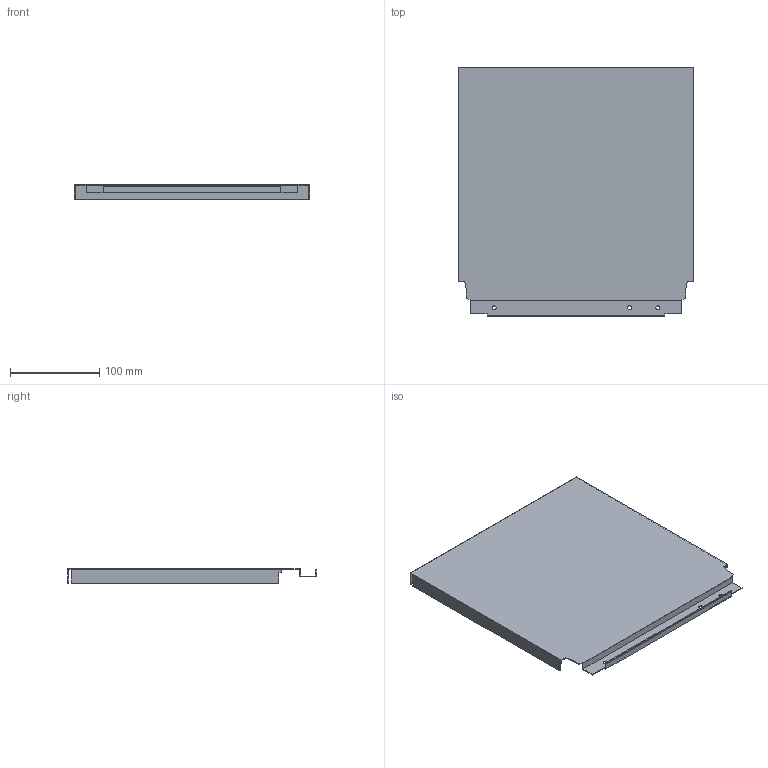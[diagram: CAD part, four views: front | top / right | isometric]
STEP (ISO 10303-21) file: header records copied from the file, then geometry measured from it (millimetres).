
FILE_DESCRIPTION (( 'STEP AP214' ), '1' );
FILE_NAME ('_DWD_XP Stahlrückwand_H278_KAB350_S18.step', '2010-07-08T13:03:54', ( 'grass' ), ( '' ), 'SwSTEP 2.0', 'SolidWorks 2010', '' );
FILE_SCHEMA (( 'AUTOMOTIVE_DESIGN' ));
Length unit declared in the file: millimetre
Products named in the file (1): _DWD_XP Stahlrückwand_H278_KAB350_S18
Bounding box: 263 x 278.57 x 16 mm (x, y, z)
Volume: 76216.5 mm3; surface area: 174291 mm2
Topology: 1 solids, 1 shells, 46 faces, 132 edges, 88 vertices
Faces by surface type: plane 40, cylinder 6
Entity records: 1534 total; most frequent: CARTESIAN_POINT 267, ORIENTED_EDGE 264, DIRECTION 238, EDGE_CURVE 132, LINE 120, VECTOR 120, VERTEX_POINT 88, AXIS2_PLACEMENT_3D 59
